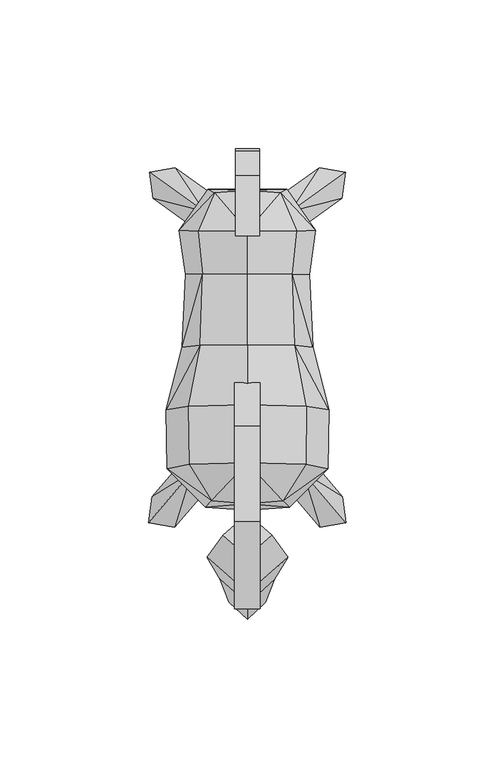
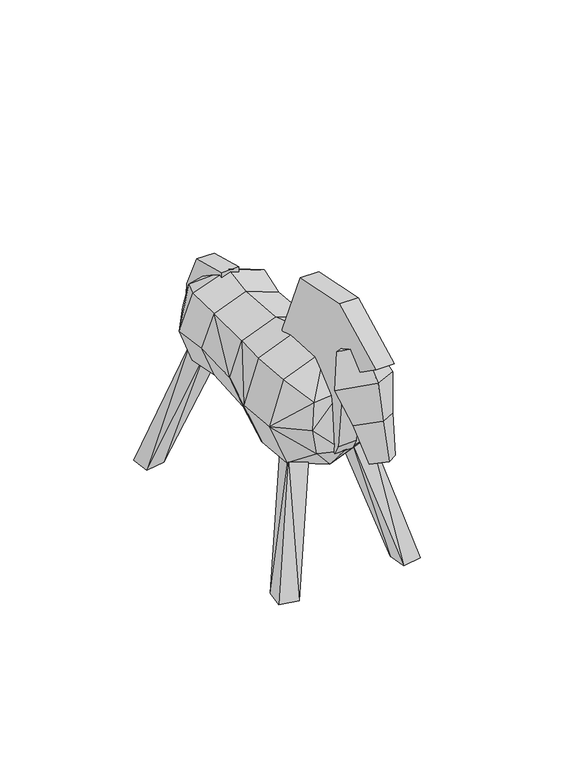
"""IFC4 building model written with IfcOpenShell, lengths in millimetres: geographic element geometry, Enscape AssetDefinition - Toy 004 Zebra : Enscape AssetDefinition - Toy 004 Zebra."""

from ifc_helpers import new_model, si_unit, origin, place, context, project, spatial, triangles, source, transform, mapped, element, save


def geographic_element_a976f562(model_context):
    return source(origin(), model_context, "Body", "Tessellation", [
        triangles([(0.0, -23.9899987, 48.0560011), (-12.036, -34.5339999, 63.9599995), (0.0, -35.9140006, 62.0519991), (0.0, -7.4769998, 45.894001), (12.036, -34.5339999, 63.9599995), (19.6610001, -23.4149997, 55.3919996), (19.9209997, -3.4030002, 53.7009963), (19.9209997, -0.859, 93.4569953), (27.0200009, -21.9340014, 74.9960037), (14.0569999, -34.766998, 76.061005), (0.0, -33.62, 90.0710011), (12.036, -32.5849978, 87.9539973), (19.6610001, -20.4220002, 94.5980049), (15.9619992, 19.5280004, 88.4189944), (0.0, -19.8770003, 101.9360018), (0.0, -0.382, 100.9110008), (0.0, 19.7659992, 94.3989982), (-15.9619992, 19.5280004, 88.4189944), (-19.6610001, -20.4220002, 94.5980049), (-19.9209997, -0.859, 93.4569953), (-27.3909993, -2.131, 73.5789981), (-19.6610001, -23.4149997, 55.3919996), (-27.0200009, -21.9340014, 74.9960037), (-12.036, -32.5849978, 87.9539973), (-14.0569999, -34.766998, 76.061005), (-19.9209997, -3.4030002, 53.7009963), (0.0, 21.4489996, 51.0170032), (-15.9619992, 18.2559998, 56.5279994), (-20.7799998, 43.3290004, 71.9569995), (-15.1130003, 43.3150024, 56.846998), (-21.9479994, 18.8919996, 72.474001), (0.0, 45.9939994, 50.7200009), (-22.8950006, 58.1150029, 72.107004), (0.0, 56.0749975, 49.3450031), (-11.0799991, 71.2139989, 61.2660006), (-16.6510004, 58.3530016, 55.4590013), (16.6510004, 58.3530016, 55.4590013), (0.0, 72.1559972, 59.135998), (15.1130003, 43.3150024, 56.846998), (11.0799991, 71.2139989, 61.2660006), (-13.228, 71.9069981, 72.3619984), (0.0, 71.6589981, 85.5869997), (13.228, 71.9069981, 72.3619984), (16.6510004, 57.8779988, 88.7549931), (11.0799991, 70.8009972, 83.4230057), (0.0, 57.7890008, 94.9979987), (-11.0799991, 70.8009972, 83.4230057), (-16.6510004, 57.8779988, 88.7549931), (-15.1130003, 43.3429985, 87.0669966), (0.0, 43.3479991, 92.7340017), (15.1130003, 43.3429985, 87.0669966), (27.3909993, -2.131, 73.5789981), (15.9619992, 18.2559998, 56.5279994), (21.9479994, 18.8919996, 72.474001), (20.7799998, 43.3290004, 71.9569995), (22.8950006, 58.1150029, 72.107004), (3.534, -34.3950027, 61.5420012), (-3.534, -34.3950027, 61.5420012), (-3.534, 6.8370004, 87.2889943), (-4.2539997, -35.3559996, 61.7910003), (-4.2349999, 7.4249999, 88.4509964), (4.2349999, 7.4249999, 88.4509964), (4.2539997, -35.3559996, 61.7910003), (3.534, 6.8370004, 87.2889943), (4.2539997, -38.270997, 67.0569988), (-4.2539997, -38.270997, 67.0569988), (-4.267, 6.9529998, 97.5929983), (4.267, 6.9529998, 97.5929983), (4.2539997, -42.194999, 99.6080007), (-4.2539997, -7.7089998, 131.9119973), (-4.2539997, -39.7269992, 138.5529891), (-4.2539997, -42.194999, 99.6080007), (4.2539997, -7.7089998, 131.9119973), (4.2539997, -53.8699994, 113.0009968), (4.2539997, -39.7269992, 138.5529891), (-4.2599998, -68.9790018, 123.6609929), (-4.2539997, -53.8699994, 113.0009968), (4.2599998, -68.9790018, 123.6609929), (-4.0000003, 85.4480002, 62.1080004), (4.0000003, 58.603, 66.4030008), (4.0000003, 85.4480002, 62.1080004), (4.0000003, 84.6160016, 72.9729986), (4.0000003, 76.4579966, 90.1139945), (4.0000003, 56.320999, 95.5210045), (-4.0000003, 58.603, 66.4030008), (-4.0000003, 84.6160016, 72.9729986), (-4.0000003, 76.4579966, 90.1139945), (-4.0000003, 56.320999, 95.5210045), (24.4369986, -41.5659994, 0.0), (31.987001, -31.3599999, 0.0), (10.0580003, -24.6849985, 55.847), (18.7340003, -23.1540009, 57.5970021), (17.8050008, -14.6750002, 54.7830024), (33.1370012, -40.0590011, 0.0), (9.1289997, -16.206, 53.032001), (23.2879999, -32.8670005, 0.0), (31.7469993, 68.8719953, 0.0), (14.6300004, 64.5050016, 57.7159992), (13.6240003, 55.8980007, 55.3519993), (6.147, 66.1659967, 55.2779985), (32.9109999, 77.5920026, 0.0), (24.2539997, 79.129, 0.0), (5.1409999, 57.5590003, 52.9140031), (23.0889999, 70.4090017, 0.0), (-18.7340003, -23.1540009, 57.5970021), (-24.4369986, -41.5659994, 0.0), (-31.987001, -31.3599999, 0.0), (-33.1370012, -40.0590011, 0.0), (-10.0580003, -24.6849985, 55.847), (-23.2879999, -32.8670005, 0.0), (-17.8050008, -14.6750002, 54.7830024), (-9.1289997, -16.206, 53.032001), (-24.2539997, 79.129, 0.0), (-23.0889999, 70.4090017, 0.0), (-14.6300004, 64.5050016, 57.7159992), (-13.6240003, 55.8980007, 55.3519993), (-31.7469993, 68.8719953, 0.0), (-6.147, 66.1659967, 55.2779985), (-5.1409999, 57.5590003, 52.9140031), (-32.9109999, 77.5920026, 0.0), (13.5810002, -51.5689998, 105.8609984), (0.0, -39.5860012, 99.472998), (0.0, -37.0169992, 114.7449946), (0.0, -50.8689971, 87.5139987), (-13.5810002, -51.5689998, 105.8609984), (-8.2400005, -44.2059999, 118.768995), (8.2400005, -44.2059999, 118.768995), (0.0, -51.3959998, 122.7929954), (6.1319999, -66.7269954, 76.3189971), (0.0, -63.5519984, 112.2489987), (9.1749998, -59.083998, 91.5949996), (-9.1749998, -59.083998, 91.5949996), (0.0, -72.355004, 78.7489996), (-6.1319999, -66.7269954, 76.3189971), (0.0, -61.0990004, 73.8899984), (0.0, -67.2999982, 95.6750013)], [[136, 134, 133], [136, 133, 129], [133, 134, 135], [133, 135, 129], [136, 132, 134], [132, 135, 134], [130, 132, 136], [130, 136, 131], [131, 129, 135], [136, 129, 131], [132, 124, 135], [131, 135, 124], [130, 125, 132], [125, 124, 132], [123, 126, 128], [125, 130, 128], [125, 128, 126], [121, 131, 124], [130, 131, 121], [121, 128, 130], [121, 127, 128], [123, 128, 127], [122, 125, 126], [125, 122, 124], [122, 123, 127], [122, 126, 123], [121, 124, 122], [122, 127, 121], [116, 117, 114], [114, 117, 120], [116, 114, 119], [118, 116, 119], [114, 118, 119], [115, 120, 117], [118, 115, 116], [115, 117, 116], [114, 113, 118], [113, 120, 115], [114, 120, 113], [113, 115, 118], [110, 108, 107], [110, 107, 111], [110, 111, 112], [109, 110, 112], [111, 109, 112], [109, 106, 110], [110, 106, 108], [111, 105, 109], [107, 108, 105], [105, 108, 106], [107, 105, 111], [105, 106, 109], [104, 101, 97], [99, 103, 104], [99, 104, 97], [99, 100, 103], [100, 104, 103], [100, 102, 104], [104, 102, 101], [97, 101, 98], [99, 98, 100], [98, 101, 102], [97, 98, 99], [98, 102, 100], [96, 91, 95], [91, 93, 95], [93, 96, 95], [93, 90, 96], [96, 90, 94], [96, 89, 91], [96, 94, 89], [91, 92, 93], [92, 94, 90], [92, 91, 89], [92, 90, 93], [92, 89, 94], [83, 87, 88], [81, 79, 86], [80, 85, 79], [84, 88, 85], [82, 86, 87], [87, 86, 85], [85, 88, 87], [80, 81, 82], [83, 84, 80], [83, 88, 84], [81, 86, 82], [80, 79, 81], [84, 85, 80], [82, 87, 83], [86, 79, 85], [80, 82, 83], [74, 78, 76], [77, 69, 74], [77, 74, 76], [78, 71, 76], [77, 76, 71], [78, 75, 71], [75, 74, 69], [78, 74, 75], [75, 69, 73], [75, 73, 70], [75, 70, 71], [77, 72, 69], [72, 77, 71], [72, 71, 70], [67, 72, 70], [70, 73, 68], [68, 73, 69], [70, 68, 67], [68, 69, 65], [65, 62, 68], [68, 62, 61], [68, 61, 67], [66, 65, 69], [67, 66, 72], [61, 66, 67], [66, 69, 72], [65, 63, 62], [66, 63, 65], [61, 62, 64], [63, 57, 64], [63, 64, 62], [61, 64, 59], [61, 60, 66], [66, 60, 63], [59, 60, 61], [59, 58, 60], [64, 57, 58], [58, 57, 63], [64, 58, 59], [58, 63, 60], [21, 18, 31], [56, 55, 39], [51, 55, 56], [54, 53, 39], [54, 39, 55], [51, 54, 55], [53, 54, 52], [53, 52, 7], [51, 14, 54], [14, 52, 54], [17, 14, 51], [17, 51, 50], [49, 18, 17], [31, 18, 49], [49, 17, 50], [31, 49, 29], [33, 29, 49], [33, 49, 48], [47, 33, 48], [46, 48, 49], [46, 50, 51], [46, 47, 48], [46, 49, 50], [51, 56, 44], [46, 51, 44], [46, 44, 45], [45, 44, 56], [45, 56, 43], [46, 42, 47], [42, 45, 43], [46, 45, 42], [41, 47, 42], [47, 41, 33], [33, 41, 35], [38, 35, 41], [38, 42, 43], [41, 42, 38], [43, 40, 38], [56, 40, 43], [56, 37, 40], [56, 39, 37], [35, 38, 34], [40, 37, 34], [40, 34, 38], [35, 34, 36], [33, 35, 36], [32, 34, 37], [32, 36, 34], [32, 37, 39], [33, 36, 30], [32, 30, 36], [30, 31, 29], [33, 30, 29], [30, 32, 27], [27, 32, 39], [27, 39, 53], [30, 28, 31], [30, 27, 28], [28, 21, 31], [4, 27, 53], [4, 28, 27], [4, 53, 7], [4, 26, 28], [28, 26, 21], [21, 26, 22], [22, 26, 4], [3, 11, 25], [25, 2, 3], [11, 24, 25], [2, 25, 23], [23, 25, 24], [21, 22, 23], [2, 23, 22], [21, 20, 18], [23, 20, 21], [23, 19, 20], [23, 24, 19], [24, 11, 15], [24, 15, 19], [16, 20, 19], [16, 17, 18], [14, 17, 16], [16, 19, 15], [16, 18, 20], [14, 8, 52], [14, 16, 8], [16, 15, 13], [16, 13, 8], [12, 13, 15], [12, 15, 11], [10, 12, 11], [10, 11, 3], [8, 13, 9], [9, 13, 12], [8, 9, 52], [9, 12, 10], [52, 9, 6], [4, 7, 6], [52, 6, 7], [3, 5, 10], [9, 10, 5], [9, 5, 6], [2, 22, 1], [1, 6, 5], [22, 4, 1], [2, 1, 3], [4, 6, 1], [1, 5, 3]]),
    ])


if __name__ == "__main__":
    model = new_model("IFC4")
    model_context = context("Model", 3, world=origin())
    ifc_project = project(units=[si_unit("LENGTHUNIT", "METRE", prefix="MILLI")], contexts=[model_context])
    site = spatial("IfcSite", under=ifc_project)
    building = spatial("IfcBuilding", under=site)
    placement = place(None, origin())
    geographic_element_shape = geographic_element_a976f562(model_context)
    element("IfcGeographicElement", 1, ObjectType="Enscape AssetDefinition - Toy 004 Zebra : Enscape AssetDefinition - Toy 004 Zebra", at=placement, inside=building, context=model_context, shape_type="MappedRepresentation", body=[
        mapped(geographic_element_shape, transform((0.0, 0.0, 0.0), x_axis=(1.0, 0.0, 0.0), y_axis=(0.0, 1.0, 0.0), z_axis=(0.0, 0.0, 1.0))),
    ])
    save(model, "model.ifc")
